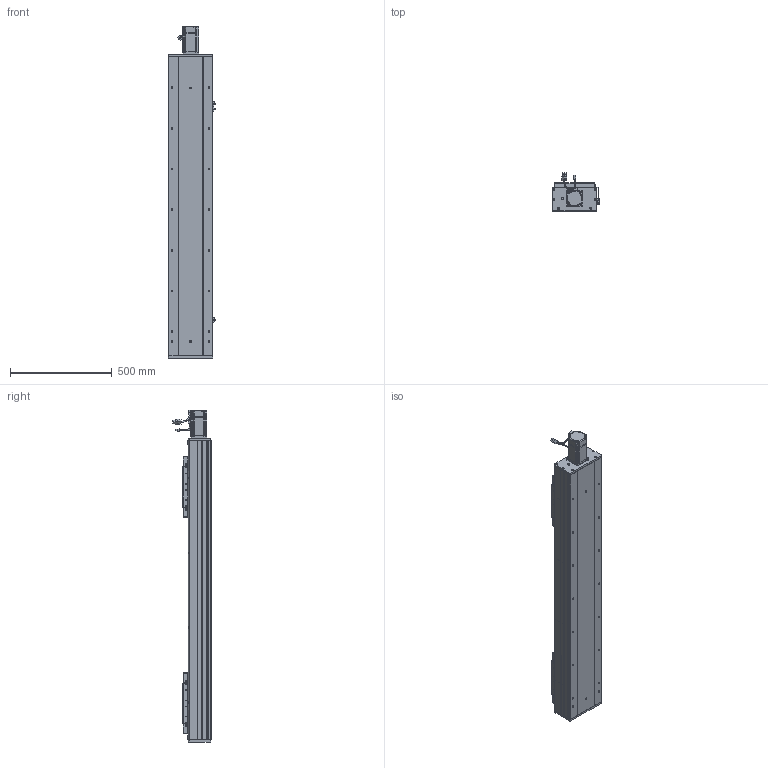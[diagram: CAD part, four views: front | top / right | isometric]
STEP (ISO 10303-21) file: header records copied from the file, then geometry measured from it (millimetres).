
FILE_DESCRIPTION (( 'STEP AP203' ), '1' );
FILE_NAME ('RY220F-L2525-300-MK.SLDASM_1050.step', '2022-07-04T01:03:49', ( '' ), ( '' ), 'SwSTEP 2.0', 'SolidWorks 2016', '' );
FILE_SCHEMA (( 'CONFIG_CONTROL_DESIGN' ));
Length unit declared in the file: millimetre
Products named in the file (15): 怢湛750W_ECMA-CX0807ES; RY220F菁釱MK-300_1050; RY220F-祥凄詩湍-MK-300_1050; RY220F綴裔啣; RY220F-滅鳥奻裔; RY220F-奻裔啣-300_1050; RY220F-詩湍揤踡輸; RY220F-672覜茼んえ; 滅袉蝶18-20; RY220Fヶ裔啣; 滅袉蝶18-24; RY220F-L2525-300-MK.SLDASM_1050; 覜茼ん672; RY220F臏賑釱25-32佪裝; RY220电机支撑座FK20（PCD90M6）
Assembly tree (23 placements, depth 2):
  RY220F-L2525-300-MK.SLDASM_1050
    RY220F菁釱MK-300_1050
    RY220电机支撑座FK20（PCD90M6）
    RY220F-奻裔啣-300_1050  x2
    怢湛750W_ECMA-CX0807ES
    RY220F臏賑釱25-32佪裝  x2
    RY220F-滅鳥奻裔  x2
    滅袉蝶18-20
    滅袉蝶18-24  x3
    RY220Fヶ裔啣
    RY220F綴裔啣
    RY220F-祥凄詩湍-MK-300_1050
    RY220F-詩湍揤踡輸  x2
    覜茼ん672  x3
    RY220F-672覜茼んえ  x2
Bounding box: 233.7 x 187.27 x 1634.3 mm (x, y, z)
Volume: 15175351.4 mm3; surface area: 3775483 mm2
Topology: 24 solids, 24 shells, 2762 faces, 7566 edges, 4684 vertices
Faces by surface type: cylinder 1250, plane 1030, cone 419, bspline 37, sphere 16, torus 10
Entity records: 68978 total; most frequent: CARTESIAN_POINT 18488, ORIENTED_EDGE 10226, DIRECTION 9958, EDGE_CURVE 5113, AXIS2_PLACEMENT_3D 3547, VERTEX_POINT 3324, LINE 2864, VECTOR 2864
